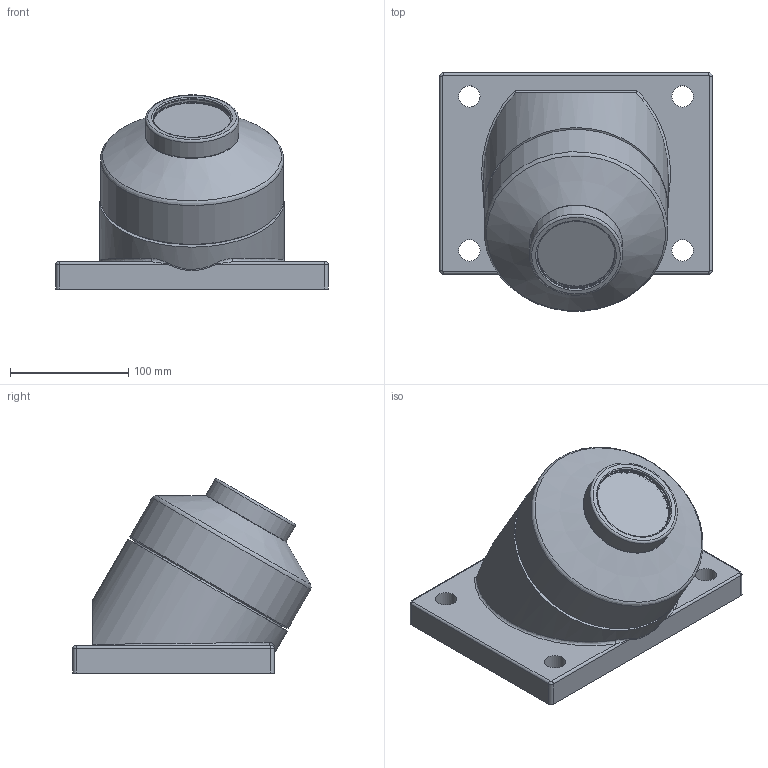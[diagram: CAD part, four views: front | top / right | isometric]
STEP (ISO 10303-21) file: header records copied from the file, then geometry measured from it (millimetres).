
FILE_DESCRIPTION(/* description */ (''),/* implementation_level */ '2;1');
FILE_NAME(/* name */ 'Z:\34-Tei\01-web 3Dデータ\SW車輪\SW-150-K.stp',/* time_stamp */ '2015-03-17T16:46:48+09:00',/* author */ ('yamaki'),/* organization */ (''),/* preprocessor_version */ 'ST-DEVELOPER v15.6',/* originating_system */ 'Autodesk Inventor 2015',/* authorisation */ '');
FILE_SCHEMA (('AUTOMOTIVE_DESIGN { 1 0 10303 214 3 1 1 }'));
Length unit declared in the file: centimetre
Products named in the file (1): SW-150-K
Bounding box: 230 x 201.41 x 163.93 mm (x, y, z)
Volume: 2184322.9 mm3; surface area: 255779.4 mm2
Topology: 1 solids, 3 shells, 114 faces, 233 edges, 147 vertices
Faces by surface type: cylinder 43, plane 35, cone 15, bspline 11, torus 10
Full cylindrical faces by diameter (mm): 5 x1, 8 x1, 18 x4, 25 x2, 29 x2, 30 x2, 36 x1, 37 x1, 56 x1, 58 x2, 60 x1, 62 x1, 62.1 x1, 63 x1, 65.2 x1, 66 x2, 68 x1, 78.79 x1, 85 x1, 119 x1, 125.1 x1, 134 x1, 155 x1, 155.5 x1
Entity records: 3376 total; most frequent: CARTESIAN_POINT 1072, DIRECTION 472, ORIENTED_EDGE 324, AXIS2_PLACEMENT_3D 224, EDGE_LOOP 206, EDGE_CURVE 162, VERTEX_POINT 134, STYLED_ITEM 115
